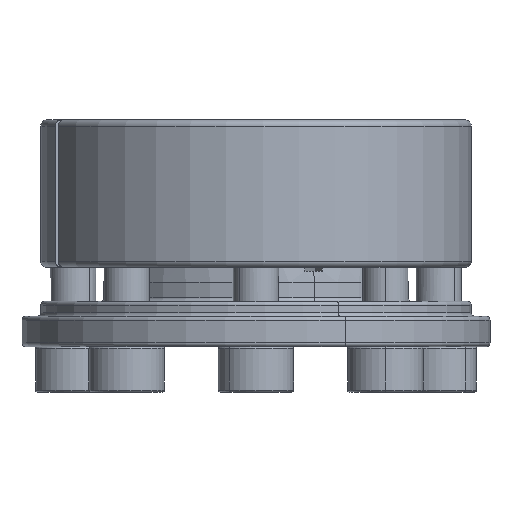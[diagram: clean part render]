
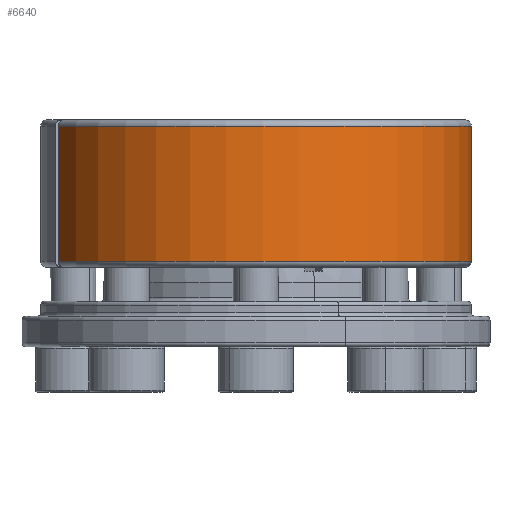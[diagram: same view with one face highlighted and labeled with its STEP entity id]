
A CAD part, front view. The second image highlights one B-rep face of the part: STEP entity #6640.
In plain terms, the highlighted cylindrical face has radius 28.5 mm (diameter 57 mm), a partial arc.
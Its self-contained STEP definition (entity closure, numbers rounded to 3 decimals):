
#131 = DIRECTION ( 'NONE',  ( 0., 0., 1. ) ) ;
#154 = CARTESIAN_POINT ( 'NONE',  ( 28.5, 0., 1.5 ) ) ;
#158 = DIRECTION ( 'NONE',  ( 0., 0., -1. ) ) ;
#159 = CARTESIAN_POINT ( 'NONE',  ( 0., 0., -18.7 ) ) ;
#160 = DIRECTION ( 'NONE',  ( 0., 0., 1. ) ) ;
#161 = DIRECTION ( 'NONE',  ( 1., 0., 0. ) ) ;
#162 = CARTESIAN_POINT ( 'NONE',  ( -26.176, -11.273, 1.5 ) ) ;
#163 = CARTESIAN_POINT ( 'NONE',  ( 0., 0., -0.8 ) ) ;
#164 = DIRECTION ( 'NONE',  ( 0., 0., 1. ) ) ;
#165 = DIRECTION ( 'NONE',  ( 1., 0., 0. ) ) ;
#758 = EDGE_CURVE ( 'NONE', #9307, #9308, #7068, .T. ) ;
#759 = EDGE_CURVE ( 'NONE', #9289, #9307, #7071, .T. ) ;
#760 = EDGE_CURVE ( 'NONE', #9311, #9308, #7074, .T. ) ;
#761 = EDGE_CURVE ( 'NONE', #9311, #9289, #7072, .T. ) ;
#803 = AXIS2_PLACEMENT_3D ( 'NONE', #159, #160, #161 ) ;
#804 = AXIS2_PLACEMENT_3D ( 'NONE', #163, #164, #165 ) ;
#989 = AXIS2_PLACEMENT_3D ( 'NONE', #3055, #3053, #3051 ) ;
#3051 = DIRECTION ( 'NONE',  ( 1., 0., 0. ) ) ;
#3053 = DIRECTION ( 'NONE',  ( 0., 0., 1. ) ) ;
#3055 = CARTESIAN_POINT ( 'NONE',  ( 0., 0., 1.5 ) ) ;
#5758 = CARTESIAN_POINT ( 'NONE',  ( -26.176, -11.273, -18.7 ) ) ;
#5776 = CARTESIAN_POINT ( 'NONE',  ( 28.5, 0., -18.7 ) ) ;
#5777 = CARTESIAN_POINT ( 'NONE',  ( 28.5, 0., -0.8 ) ) ;
#5780 = CARTESIAN_POINT ( 'NONE',  ( -26.176, -11.273, -0.8 ) ) ;
#6640 = ADVANCED_FACE ( 'NONE', ( #7613 ), #7620, .T. ) ;
#7022 = EDGE_LOOP ( 'NONE', ( #7768, #7769, #7770, #7771 ) ) ;
#7068 = LINE ( 'NONE', #154, #7073 ) ;
#7071 = CIRCLE ( 'NONE', #803, 28.5 ) ;
#7072 = LINE ( 'NONE', #162, #7077 ) ;
#7073 = VECTOR ( 'NONE', #131, 1000. ) ;
#7074 = CIRCLE ( 'NONE', #804, 28.5 ) ;
#7077 = VECTOR ( 'NONE', #158, 1000. ) ;
#7613 = FACE_OUTER_BOUND ( 'NONE', #7022, .T. ) ;
#7620 = CYLINDRICAL_SURFACE ( 'NONE', #989, 28.5 ) ;
#7768 = ORIENTED_EDGE ( 'NONE', *, *, #759, .T. ) ;
#7769 = ORIENTED_EDGE ( 'NONE', *, *, #758, .T. ) ;
#7770 = ORIENTED_EDGE ( 'NONE', *, *, #760, .F. ) ;
#7771 = ORIENTED_EDGE ( 'NONE', *, *, #761, .T. ) ;
#9289 = VERTEX_POINT ( 'NONE', #5758 ) ;
#9307 = VERTEX_POINT ( 'NONE', #5776 ) ;
#9308 = VERTEX_POINT ( 'NONE', #5777 ) ;
#9311 = VERTEX_POINT ( 'NONE', #5780 ) ;
